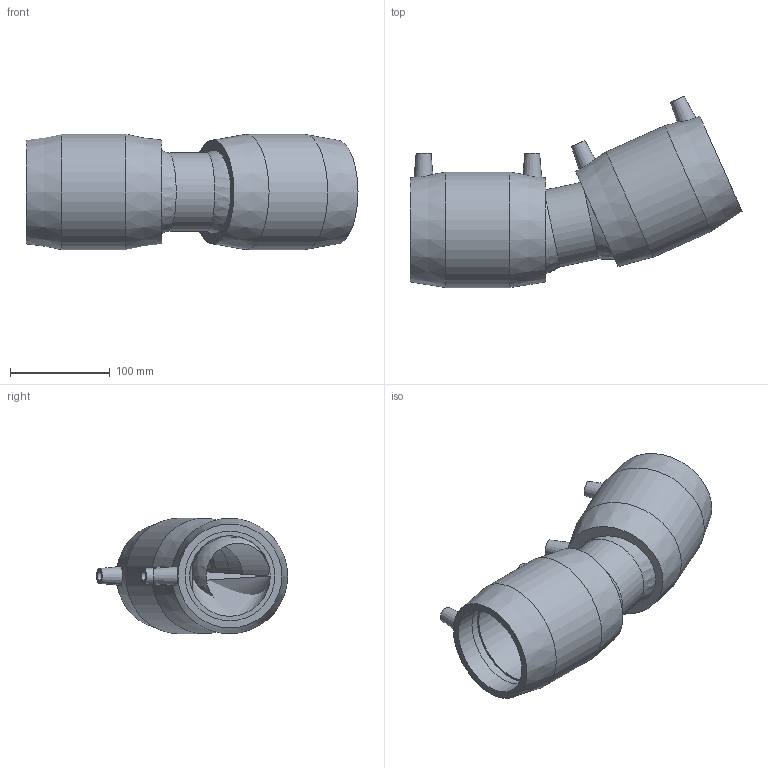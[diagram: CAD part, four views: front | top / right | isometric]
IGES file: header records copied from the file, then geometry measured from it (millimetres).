
Global section: file name: 4947C4090.ipt; native system: Autodesk Inventor 2015; preprocessor: unknown; author: KIM; date: 20171106.094159; units: millimetre
Bounding box: 333.55 x 192.23 x 116 mm (x, y, z)
Volume: 1467865.9 mm3; surface area: 220657.3 mm2
Topology: 1 solids, 1 shells, 54 faces, 114 edges, 78 vertices
Faces by surface type: plane 20, revolution 15, cone 8, cylinder 7, sphere 4
Full cylindrical faces by diameter (mm): 4 x4, 78.72 x1, 116 x2
